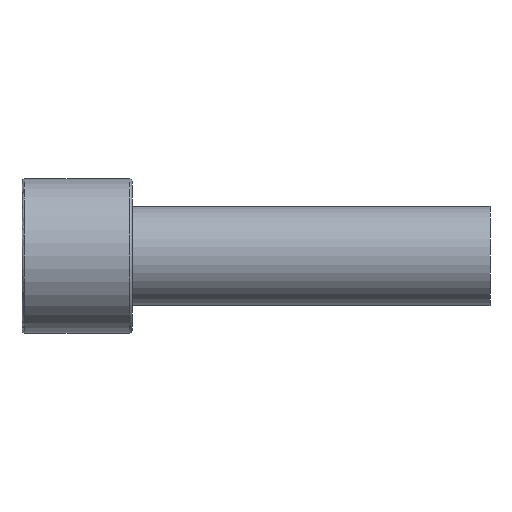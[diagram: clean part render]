
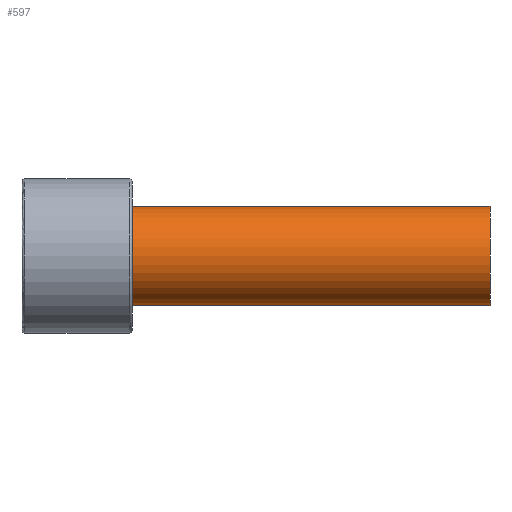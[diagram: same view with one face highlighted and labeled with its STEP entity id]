
A CAD part, front view. The second image highlights one B-rep face of the part: STEP entity #597.
In plain terms, the highlighted cylindrical face has radius 9 mm (diameter 18 mm), a partial arc.
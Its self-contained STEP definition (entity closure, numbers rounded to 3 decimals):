
#431=CARTESIAN_POINT('Vertex',(85.,0.,9.)) ;
#434=CARTESIAN_POINT('Axis2P3D Location',(85.,0.,0.)) ;
#438=CARTESIAN_POINT('Vertex',(85.,-9.,0.)) ;
#441=CARTESIAN_POINT('Axis2P3D Location',(85.,0.,0.)) ;
#445=CARTESIAN_POINT('Vertex',(85.,0.,-9.)) ;
#537=CARTESIAN_POINT('Line Origine',(85.,0.,9.)) ;
#541=CARTESIAN_POINT('Vertex',(20.,0.,9.)) ;
#544=CARTESIAN_POINT('Line Origine',(85.,0.,-9.)) ;
#548=CARTESIAN_POINT('Vertex',(20.,0.,-9.)) ;
#572=CARTESIAN_POINT('Axis2P3D Location',(85.,0.,0.)) ;
#577=CARTESIAN_POINT('Axis2P3D Location',(20.,0.,0.)) ;
#581=CARTESIAN_POINT('Vertex',(20.,-9.,0.)) ;
#584=CARTESIAN_POINT('Axis2P3D Location',(20.,0.,0.)) ;
#435=DIRECTION('Axis2P3D Direction',(1.,0.,-0.)) ;
#442=DIRECTION('Axis2P3D Direction',(1.,0.,-0.)) ;
#538=DIRECTION('Vector Direction',(-1.,0.,0.)) ;
#545=DIRECTION('Vector Direction',(-1.,0.,0.)) ;
#573=DIRECTION('Axis2P3D Direction',(-1.,-0.,-0.)) ;
#574=DIRECTION('Axis2P3D XDirection',(0.,0.,-1.)) ;
#578=DIRECTION('Axis2P3D Direction',(-1.,-0.,-0.)) ;
#585=DIRECTION('Axis2P3D Direction',(-1.,-0.,-0.)) ;
#436=AXIS2_PLACEMENT_3D('Circle Axis2P3D',#434,#435,$) ;
#443=AXIS2_PLACEMENT_3D('Circle Axis2P3D',#441,#442,$) ;
#575=AXIS2_PLACEMENT_3D('Cylinder Axis2P3D',#572,#573,#574) ;
#579=AXIS2_PLACEMENT_3D('Circle Axis2P3D',#577,#578,$) ;
#586=AXIS2_PLACEMENT_3D('Circle Axis2P3D',#584,#585,$) ;
#590=ORIENTED_EDGE('',*,*,#550,.T.) ;
#591=ORIENTED_EDGE('',*,*,#447,.F.) ;
#592=ORIENTED_EDGE('',*,*,#440,.F.) ;
#593=ORIENTED_EDGE('',*,*,#543,.T.) ;
#594=ORIENTED_EDGE('',*,*,#583,.T.) ;
#595=ORIENTED_EDGE('',*,*,#588,.T.) ;
#539=VECTOR('Line Direction',#538,1.) ;
#546=VECTOR('Line Direction',#545,1.) ;
#597=ADVANCED_FACE('367F-18X85',(#596),#576,.T.) ;
#437=CIRCLE('generated circle',#436,9.) ;
#444=CIRCLE('generated circle',#443,9.) ;
#580=CIRCLE('generated circle',#579,9.) ;
#587=CIRCLE('generated circle',#586,9.) ;
#576=CYLINDRICAL_SURFACE('generated cylinder',#575,9.) ;
#440=EDGE_CURVE('',#432,#439,#437,.T.) ;
#447=EDGE_CURVE('',#439,#446,#444,.T.) ;
#543=EDGE_CURVE('',#432,#542,#540,.T.) ;
#550=EDGE_CURVE('',#549,#446,#547,.F.) ;
#583=EDGE_CURVE('',#542,#582,#580,.F.) ;
#588=EDGE_CURVE('',#582,#549,#587,.F.) ;
#589=EDGE_LOOP('',(#590,#591,#592,#593,#594,#595)) ;
#596=FACE_OUTER_BOUND('',#589,.T.) ;
#540=LINE('Line',#537,#539) ;
#547=LINE('Line',#544,#546) ;
#432=VERTEX_POINT('',#431) ;
#439=VERTEX_POINT('',#438) ;
#446=VERTEX_POINT('',#445) ;
#542=VERTEX_POINT('',#541) ;
#549=VERTEX_POINT('',#548) ;
#582=VERTEX_POINT('',#581) ;
